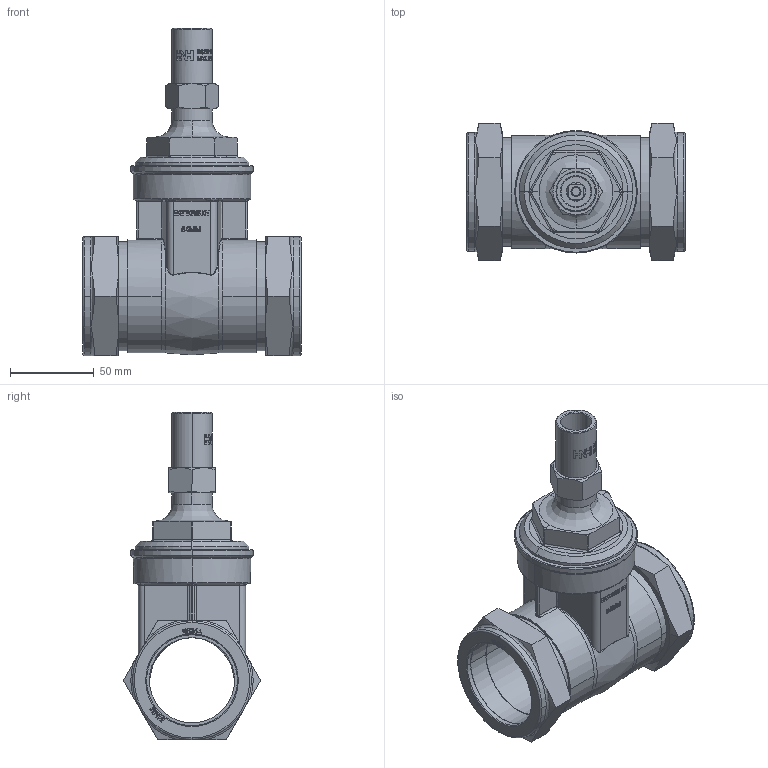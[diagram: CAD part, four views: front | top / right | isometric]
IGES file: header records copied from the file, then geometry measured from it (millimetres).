
Global section: file name: No Iges File Name specified; native system: AutoDesk Inventor R12.0; preprocessor: AutoDesk Inventor Iges Exporter R12.0; date: 20110309.152452; units: millimetre
Bounding box: 130.52 x 81.98 x 195.5 mm (x, y, z)
Volume: 391280.6 mm3; surface area: 97794.2 mm2
Topology: 1 solids, 3 shells, 1262 faces, 3355 edges, 2188 vertices
Faces by surface type: plane 636, bspline 387, revolution 80, cylinder 75, cone 56, torus 28
